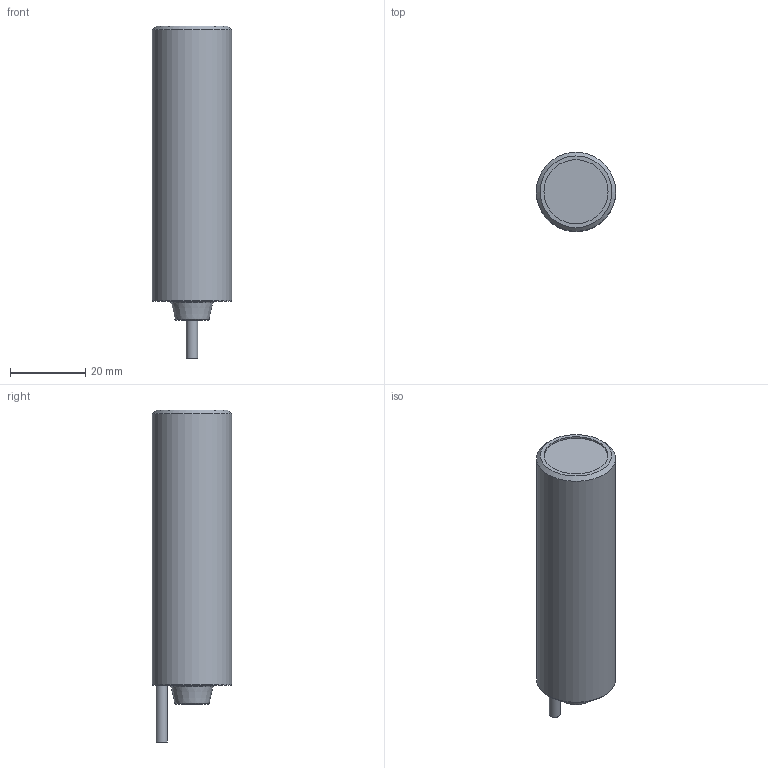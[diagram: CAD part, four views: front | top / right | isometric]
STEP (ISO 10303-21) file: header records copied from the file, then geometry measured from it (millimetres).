
FILE_DESCRIPTION(/* description */ ('Alibre Inc.'),/* implementation_level */ '2;1');
FILE_NAME(/* name */ 'export0',/* time_stamp */ '2017-06-15T10:00:13+10:00',/* author */ (''),/* organization */ (''),/* preprocessor_version */ 'ST-DEVELOPER v14',/* originating_system */ 'Alibre',/* authorisation */ '');
FILE_SCHEMA (('CONFIG_CONTROL_DESIGN'));
Length unit declared in the file: centimetre
Products named in the file (1): ID_1
Bounding box: 21 x 21 x 88 mm (x, y, z)
Volume: 25529.7 mm3; surface area: 5839 mm2
Topology: 1 solids, 1 shells, 15 faces, 25 edges, 15 vertices
Faces by surface type: plane 5, cylinder 4, cone 4, torus 2
Full cylindrical faces by diameter (mm): 3 x1, 4.978 x1, 17 x1, 21 x1
Entity records: 376 total; most frequent: DIRECTION 51, CARTESIAN_POINT 44, FACE_BOUND 29, AXIS2_PLACEMENT_3D 29, ORIENTED_EDGE 28, EDGE_LOOP 28, VERTEX_POINT 15, ADVANCED_FACE 15
